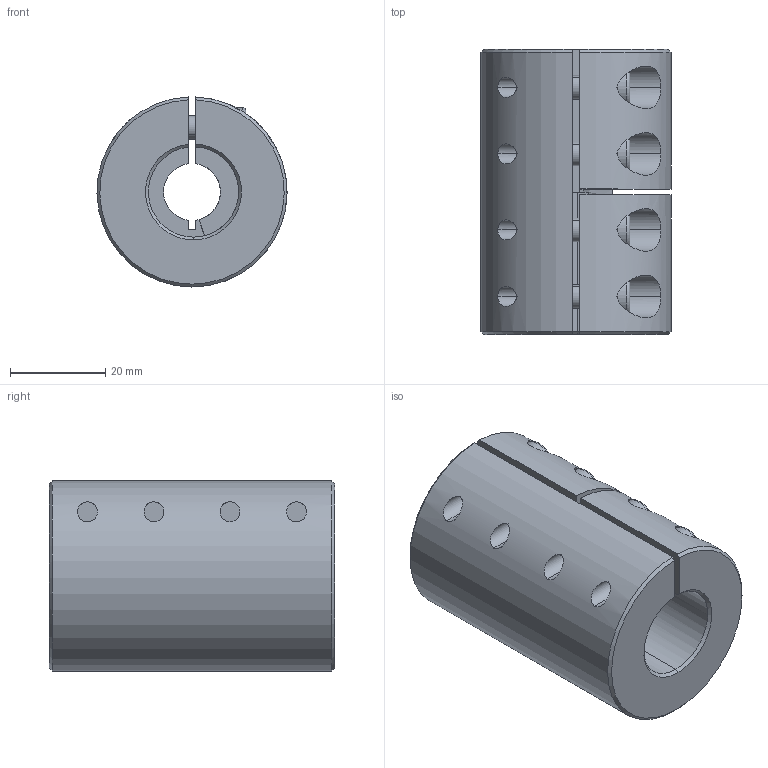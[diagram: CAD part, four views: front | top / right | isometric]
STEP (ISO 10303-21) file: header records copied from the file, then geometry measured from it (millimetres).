
FILE_DESCRIPTION (( 'STEP AP214' ), '1' );
FILE_NAME ('LL-B-D40L60-12-19½¨Ä£.STEP', '2022-07-22T00:59:54', ( '' ), ( '' ), 'SwSTEP 2.0', 'SolidWorks 2022', '' );
FILE_SCHEMA (( 'AUTOMOTIVE_DESIGN' ));
Length unit declared in the file: millimetre
Products named in the file (1): LL-B-D40L60-12-19膘耀
Bounding box: 40 x 60 x 39.99 mm (x, y, z)
Volume: 60272.9 mm3; surface area: 17416.4 mm2
Topology: 1 solids, 1 shells, 181 faces, 459 edges, 288 vertices
Faces by surface type: plane 87, cylinder 71, cone 15, torus 8
Entity records: 5971 total; most frequent: CARTESIAN_POINT 1511, DIRECTION 967, ORIENTED_EDGE 902, EDGE_CURVE 451, AXIS2_PLACEMENT_3D 376, VERTEX_POINT 288, LINE 215, VECTOR 215
